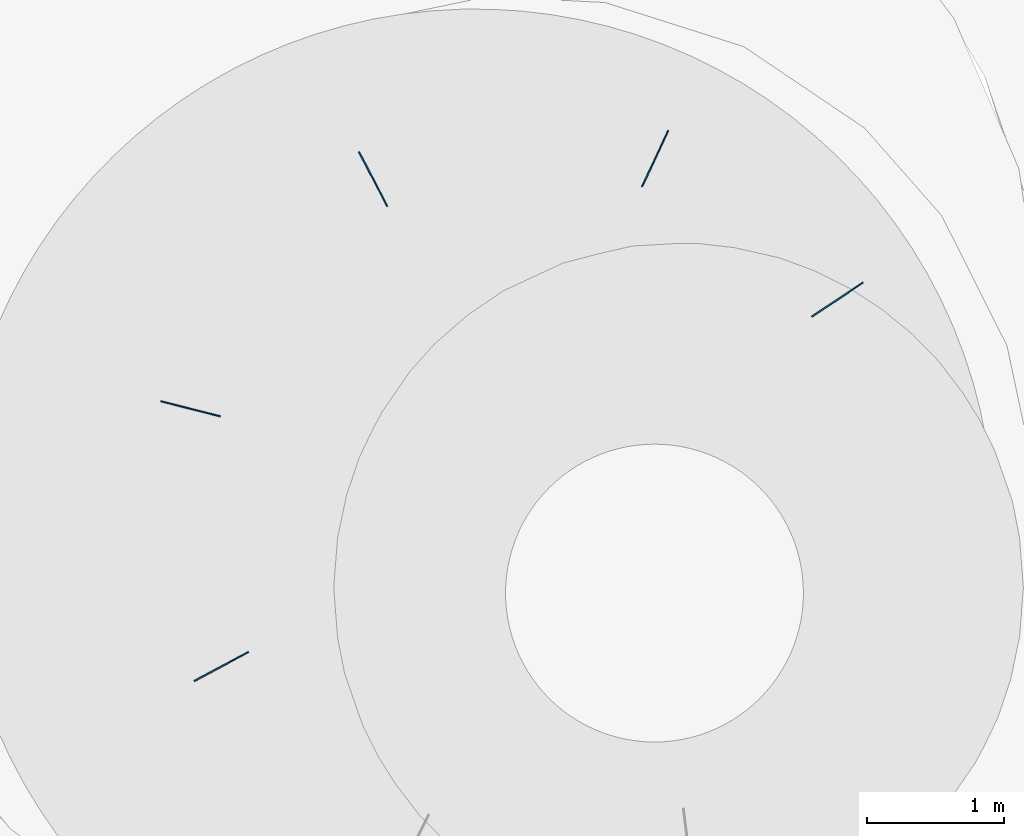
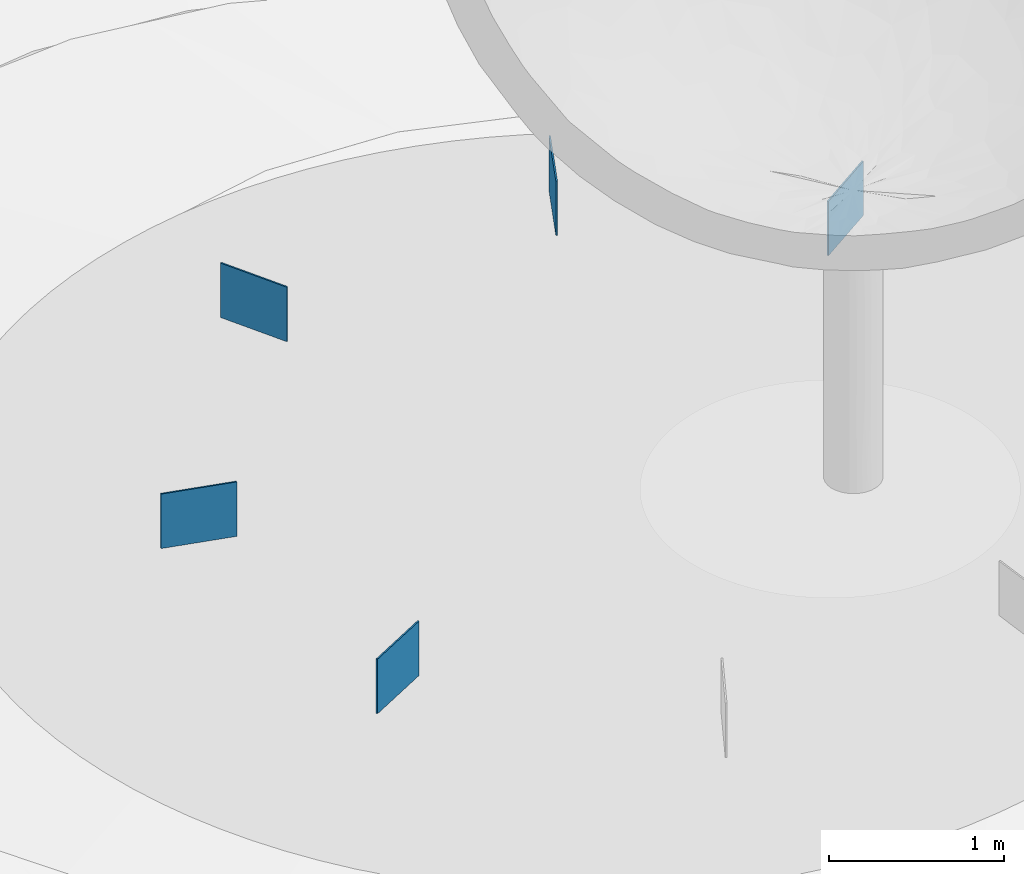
# One storey, part 39 of 75: 5 walls.
"""IFC2X3 building model written with IfcOpenShell, lengths in metres."""

from ifc_helpers import new_model, entity, si_unit, converted_unit, derived_unit, direction, frame, frame_2d, origin, place, context, subcontext, project, spatial, rectangle, extrude, material, layer, layer_set, layer_usage, type_object, element, save


model = new_model("IFC2X3")

# Units and contexts
model_context = context("Model", 3, precision=1e-05, world=origin(), true_north=direction((6.123031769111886e-17, 1.0)))
body_context = subcontext(model_context, "Body", "Model", "MODEL_VIEW")
ifc_project = project(units=[si_unit("LENGTHUNIT", "METRE"), si_unit("AREAUNIT", "SQUARE_METRE"), si_unit("VOLUMEUNIT", "CUBIC_METRE"), converted_unit("PLANEANGLEUNIT", "DEGREE", entity("IfcRatioMeasure", 0.017453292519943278), si_unit("PLANEANGLEUNIT", "RADIAN"), dimensions=[0, 0, 0, 0, 0, 0, 0]), si_unit("MASSUNIT", "GRAM", prefix="KILO"), derived_unit("MASSDENSITYUNIT", [(si_unit("MASSUNIT", "GRAM", prefix="KILO"), 1), (si_unit("LENGTHUNIT", "METRE"), -3)]), derived_unit("IONCONCENTRATIONUNIT", [(si_unit("MASSUNIT", "GRAM", prefix="KILO"), 1), (si_unit("LENGTHUNIT", "METRE"), -3)]), derived_unit("MOMENTOFINERTIAUNIT", [(si_unit("LENGTHUNIT", "METRE"), 4)]), si_unit("TIMEUNIT", "SECOND"), si_unit("FREQUENCYUNIT", "HERTZ"), si_unit("THERMODYNAMICTEMPERATUREUNIT", "DEGREE_CELSIUS"), derived_unit("THERMALTRANSMITTANCEUNIT", [(si_unit("MASSUNIT", "GRAM", prefix="KILO"), 1), (si_unit("THERMODYNAMICTEMPERATUREUNIT", "KELVIN"), -1), (si_unit("TIMEUNIT", "SECOND"), -3)]), derived_unit("THERMALCONDUCTANCEUNIT", [(si_unit("MASSUNIT", "GRAM", prefix="KILO"), 1), (si_unit("THERMODYNAMICTEMPERATUREUNIT", "KELVIN"), -1), (si_unit("TIMEUNIT", "SECOND"), -3), (si_unit("LENGTHUNIT", "METRE"), 1)]), derived_unit("VOLUMETRICFLOWRATEUNIT", [(si_unit("LENGTHUNIT", "METRE"), 3), (si_unit("TIMEUNIT", "SECOND"), -1)]), derived_unit("MASSFLOWRATEUNIT", [(si_unit("MASSUNIT", "GRAM", prefix="KILO"), 1), (si_unit("TIMEUNIT", "SECOND"), -1)]), derived_unit("ROTATIONALFREQUENCYUNIT", [(si_unit("TIMEUNIT", "SECOND"), -1)]), si_unit("ELECTRICCURRENTUNIT", "AMPERE"), si_unit("ELECTRICVOLTAGEUNIT", "VOLT"), si_unit("POWERUNIT", "WATT"), si_unit("FORCEUNIT", "NEWTON", prefix="KILO"), si_unit("ILLUMINANCEUNIT", "LUX"), si_unit("LUMINOUSFLUXUNIT", "LUMEN"), si_unit("LUMINOUSINTENSITYUNIT", "CANDELA"), derived_unit("USERDEFINED", [(si_unit("MASSUNIT", "GRAM", prefix="KILO"), -1), (si_unit("LENGTHUNIT", "METRE"), -2), (si_unit("TIMEUNIT", "SECOND"), 3), (si_unit("LUMINOUSFLUXUNIT", "LUMEN"), 1)]), derived_unit("USERDEFINED", [(si_unit("MASSUNIT", "GRAM", prefix="KILO"), 1), (si_unit("TIMEUNIT", "SECOND"), -3), (si_unit("LENGTHUNIT", "METRE"), 3), (si_unit("ELECTRICCURRENTUNIT", "AMPERE"), -2)]), derived_unit("SOUNDPOWERUNIT", [(si_unit("MASSUNIT", "GRAM", prefix="KILO"), 1), (si_unit("TIMEUNIT", "SECOND"), -3), (si_unit("LENGTHUNIT", "METRE"), 2)]), derived_unit("SOUNDPRESSUREUNIT", [(si_unit("MASSUNIT", "GRAM", prefix="KILO"), 1), (si_unit("LENGTHUNIT", "METRE"), -1), (si_unit("TIMEUNIT", "SECOND"), -2)]), derived_unit("LINEARVELOCITYUNIT", [(si_unit("LENGTHUNIT", "METRE"), 1), (si_unit("TIMEUNIT", "SECOND"), -1)]), si_unit("PRESSUREUNIT", "PASCAL"), derived_unit("USERDEFINED", [(si_unit("MASSUNIT", "GRAM", prefix="KILO"), 1), (si_unit("LENGTHUNIT", "METRE"), -2), (si_unit("TIMEUNIT", "SECOND"), -2)]), derived_unit("LINEARFORCEUNIT", [(si_unit("MASSUNIT", "GRAM", prefix="KILO"), 1), (si_unit("TIMEUNIT", "SECOND"), -2)]), derived_unit("PLANARFORCEUNIT", [(si_unit("MASSUNIT", "GRAM", prefix="KILO"), 1), (si_unit("LENGTHUNIT", "METRE"), -1), (si_unit("TIMEUNIT", "SECOND"), -2)]), derived_unit("SPECIFICHEATCAPACITYUNIT", [(si_unit("THERMODYNAMICTEMPERATUREUNIT", "KELVIN"), -1), (si_unit("LENGTHUNIT", "METRE"), 2), (si_unit("TIMEUNIT", "SECOND"), -2)]), derived_unit("HEATINGVALUEUNIT", [(si_unit("LENGTHUNIT", "METRE"), 2), (si_unit("TIMEUNIT", "SECOND"), -2)]), derived_unit("VAPORPERMEABILITYUNIT", [(si_unit("LENGTHUNIT", "METRE"), -1), (si_unit("TIMEUNIT", "SECOND"), 1)]), derived_unit("DYNAMICVISCOSITYUNIT", [(si_unit("MASSUNIT", "GRAM", prefix="KILO"), 1), (si_unit("TIMEUNIT", "SECOND"), -1), (si_unit("LENGTHUNIT", "METRE"), -1)]), derived_unit("THERMALEXPANSIONCOEFFICIENTUNIT", [(si_unit("THERMODYNAMICTEMPERATUREUNIT", "KELVIN"), -1)]), derived_unit("MODULUSOFELASTICITYUNIT", [(si_unit("MASSUNIT", "GRAM", prefix="KILO"), 1), (si_unit("LENGTHUNIT", "METRE"), -1), (si_unit("TIMEUNIT", "SECOND"), -2)]), derived_unit("ISOTHERMALMOISTURECAPACITYUNIT", [(si_unit("LENGTHUNIT", "METRE"), 3), (si_unit("MASSUNIT", "GRAM", prefix="KILO"), -1)]), derived_unit("MOISTUREDIFFUSIVITYUNIT", [(si_unit("TIMEUNIT", "SECOND"), -1), (si_unit("LENGTHUNIT", "METRE"), 2)])], contexts=[model_context])

# Site, building, storey
site_placement = place(None, origin())
site = spatial("IfcSite", under=ifc_project, at=site_placement, Name="Default", CompositionType="ELEMENT")
building_placement = place(site_placement, origin())
building = spatial("IfcBuilding", under=site, at=building_placement, Name="Projeto", CompositionType="ELEMENT")
storey_placement = place(building_placement, origin())
storey = spatial("IfcBuildingStorey", under=building, at=storey_placement, Name="Nível 1", CompositionType="ELEMENT", Elevation=0.0)

# Walls
ifc_material = material(Name=".ARQ.PIS - CONTRAPISO.ARMADO")
ifc_layer = layer(ifc_material, 0.01)
ifc_layer_set = layer_set([ifc_layer], Name="Parede básica:15cm 2")
ifc_layer_usage = layer_usage(ifc_layer_set, "AXIS2", "NEGATIVE", 0.005000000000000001)
wall_type = type_object("IfcWallType", Name="Parede básica:15cm 2", PredefinedType="STANDARD", material=ifc_layer_set)
wall_1_placement = place(storey_placement, frame((-19.42513493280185, -12.317905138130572, 0.0), z_axis=(0.0, 0.0, 1.0), x_axis=(-0.8817794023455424, -0.4716620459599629, 0.0)))
element("IfcWallStandardCase", 1, at=wall_1_placement, inside=storey, type_object=wall_type, material=ifc_layer_usage, Name="Parede básica:15cm 2", ObjectType="Parede básica:15cm 2", context=body_context, shape_type="SweptSolid", body=[
    extrude(rectangle(XDim=0.4500000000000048, YDim=0.009999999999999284, at=frame_2d((0.2250000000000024, 4.336808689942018e-19), x_axis=(-1.0, 0.0))), origin(), (0.0, 0.0, 1.0), 0.37999999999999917),
])
wall_2_placement = place(storey_placement, frame((-19.631254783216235, -10.595571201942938, 0.0), z_axis=(0.0, 0.0, 1.0), x_axis=(-0.9692113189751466, 0.24623041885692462, 0.0)))
element("IfcWallStandardCase", 2, at=wall_2_placement, inside=storey, type_object=wall_type, material=ifc_layer_usage, Name="Parede básica:15cm 2", ObjectType="Parede básica:15cm 2", context=body_context, shape_type="SweptSolid", body=[
    extrude(rectangle(XDim=0.4500000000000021, YDim=0.00999999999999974, at=frame_2d((0.22500000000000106, -6.938893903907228e-18), x_axis=(-1.0, 0.0))), origin(), (0.0, 0.0, 1.0), 0.37999999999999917),
])
wall_3_placement = place(storey_placement, frame((-18.410604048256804, -9.061025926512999, 0.0), z_axis=(0.0, 0.0, 1.0), x_axis=(-0.4616340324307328, 0.887070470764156, 0.0)))
element("IfcWallStandardCase", 3, at=wall_3_placement, inside=storey, type_object=wall_type, material=ifc_layer_usage, Name="Parede básica:15cm 2", ObjectType="Parede básica:15cm 2", context=body_context, shape_type="SweptSolid", body=[
    extrude(rectangle(XDim=0.4500000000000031, YDim=0.009999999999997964, at=frame_2d((0.22500000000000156, -2.645453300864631e-16), x_axis=(-1.0, 0.0))), origin(), (0.0, 0.0, 1.0), 0.37999999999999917),
])
wall_4_placement = place(storey_placement, frame((-16.548639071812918, -8.916380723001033, 0.0), z_axis=(0.0, 0.0, 1.0), x_axis=(0.4226182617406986, 0.9063077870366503, 0.0)))
element("IfcWallStandardCase", 4, at=wall_4_placement, inside=storey, type_object=wall_type, material=ifc_layer_usage, Name="Parede básica:15cm 2", ObjectType="Parede básica:15cm 2", context=body_context, shape_type="SweptSolid", body=[
    extrude(rectangle(XDim=0.4525722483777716, YDim=0.009999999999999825, at=frame_2d((0.2262861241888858, 9.107298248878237e-18), x_axis=(-1.0, 0.0))), origin(), (0.0, 0.0, 1.0), 0.37999999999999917),
])
wall_5_placement = place(storey_placement, frame((-15.30798493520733, -9.86669324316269, 0.0), z_axis=(0.0, 0.0, 1.0), x_axis=(0.8326031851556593, 0.5538699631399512, 0.0)))
element("IfcWallStandardCase", 5, at=wall_5_placement, inside=storey, type_object=wall_type, material=ifc_layer_usage, Name="Parede básica:15cm 2", ObjectType="Parede básica:15cm 2", context=body_context, shape_type="SweptSolid", body=[
    extrude(rectangle(XDim=0.4500000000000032, YDim=0.00999999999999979, at=frame_2d((0.2250000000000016, -4.7704895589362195e-18), x_axis=(-1.0, 0.0))), origin(), (0.0, 0.0, 1.0), 0.37999999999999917),
])

save(model, "model.ifc")
